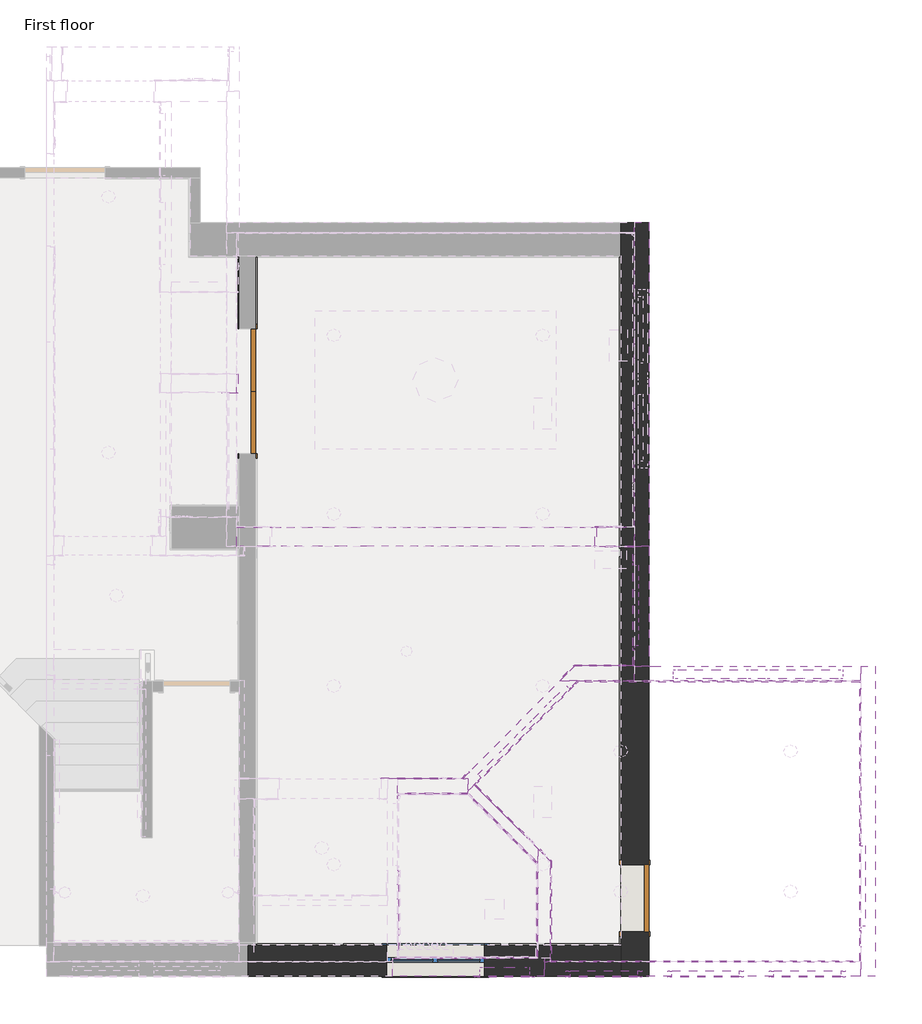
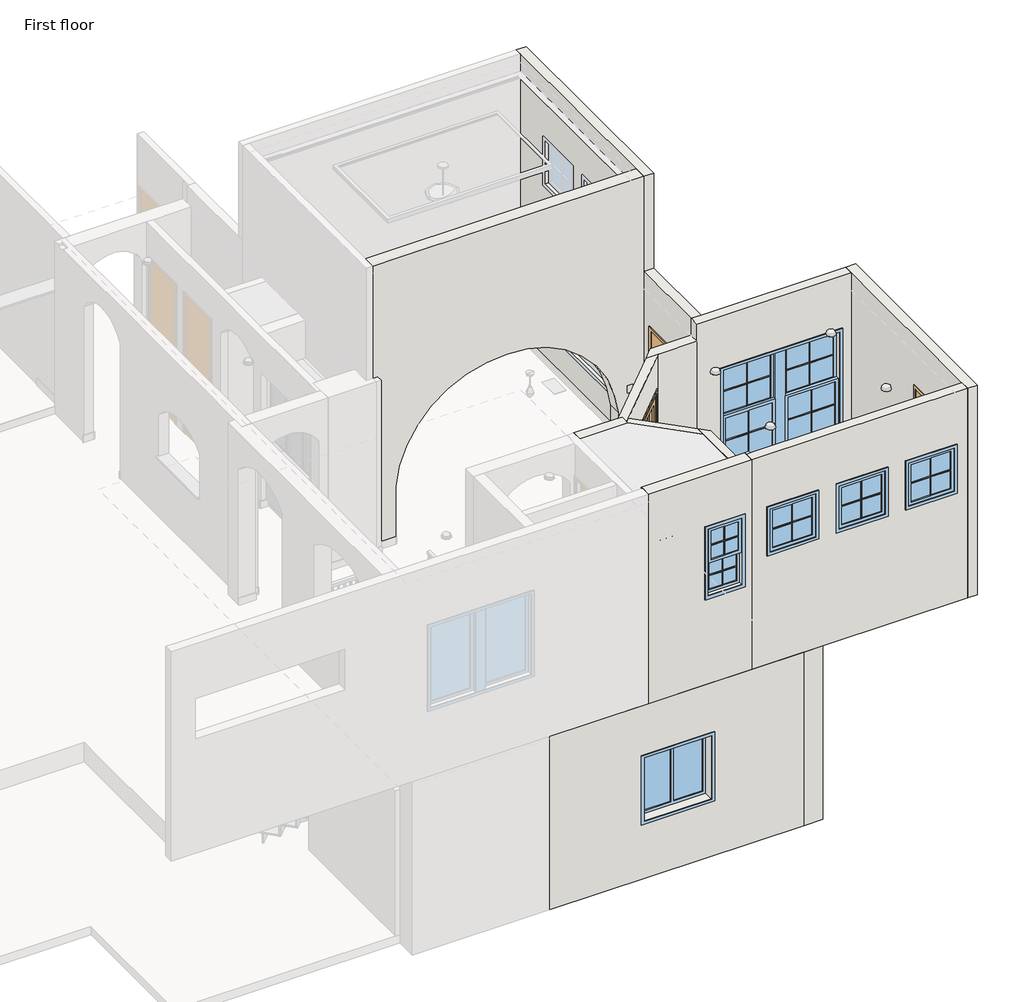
# One storey, part 6 of 14: 45 walls, 6 windows, 5 doors.
"""IFC4 building model written with IfcOpenShell, lengths in millimetres."""

from ifc_helpers import new_model, si_unit, frame, origin, origin_with_axes, place, context, project, spatial, polyline, circle_curve, outline, extrude, faceted_brep, transform, mapped, element, save
from ifc_brep_helpers import plane_surface, revolved_surface, advanced_brep
from components import door_2c57831a, door_65f2ba71, door_70bb29d6, door_d479302f, door_68885316, window_1e95f7a6, window_3fe6f13e, window_590863fd, window_b5689cda

model = new_model("IFC4")

# Units and contexts
model_context = context("Model", 3, world=origin())
ifc_project = project(units=[si_unit("LENGTHUNIT", "METRE", prefix="MILLI")], contexts=[model_context])

# Site, building, storey
site = spatial("IfcSite", under=ifc_project)
building = spatial("IfcBuilding", under=site)
storey = spatial("IfcBuildingStorey", under=building, Name="First floor", Elevation=0.0)

# Doors
placement = place(None, origin())
door_shape = door_2c57831a(model_context)
element("IfcDoor", 1, ObjectType="Door_1 : 2'-6\" X 6'-8\"", at=placement, inside=storey, context=model_context, shape_type="MappedRepresentation", body=[
    mapped(door_shape, transform((10712.45, 889.0, 0.0), x_axis=(0.0, -1.0, 0.0), y_axis=(1.0, 0.0, 0.0), z_axis=(0.0, 0.0, 1.0))),
])
door_2_shape = door_65f2ba71(model_context)
element("IfcDoor", 2, ObjectType="Door_1 : 3'-0\" X 8'-0\"", at=placement, inside=storey, context=model_context, shape_type="MappedRepresentation", body=[
    mapped(door_2_shape, transform((13366.75, 1028.7, 3251.2), x_axis=(0.0, -1.0, 0.0), y_axis=(1.0, 0.0, 0.0), z_axis=(0.0, 0.0, 1.0))),
])
door_3_shape = door_70bb29d6(model_context)
element("IfcDoor", 3, ObjectType="Door_4 : 4'-8\" X 8'-2\"", at=placement, inside=storey, context=model_context, shape_type="MappedRepresentation", body=[
    mapped(door_3_shape, transform((6303.16875, 6654.8, 0.0), x_axis=(0.0, -1.0, 0.0), y_axis=(1.0, 0.0, 0.0), z_axis=(0.0, 0.0, 1.0))),
])
door_4_shape = door_d479302f(model_context)
element("IfcDoor", 4, ObjectType="Door_5 : 4'-8\" X 8'-0\"", at=placement, inside=storey, context=model_context, shape_type="MappedRepresentation", body=[
    mapped(door_4_shape, transform((9416.1797046, 2815.6891591, 3251.2), x_axis=(-0.7050813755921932, -0.7091264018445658, 0.0), y_axis=(0.7091264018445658, -0.7050813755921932, 0.0), z_axis=(0.0, 0.0, 1.0))),
])
door_5_shape = door_68885316(model_context)
element("IfcDoor", 5, ObjectType="Door_6 : 3'-0\" X 8'-0\"", at=placement, inside=storey, context=model_context, shape_type="MappedRepresentation", body=[
    mapped(door_5_shape, transform((10785.475, 4216.4, 3251.2), x_axis=(0.0, -1.0, 0.0), y_axis=(1.0, 0.0, 0.0), z_axis=(0.0, 0.0, 1.0))),
])

# Walls
element("IfcWall", 6, ObjectType="Wall Border_T1", at=placement, inside=storey, context=model_context, shape_type="SweptSolid", body=[
    extrude(outline(polyline([(10541.0, 1320.8), (10541.0, 8178.8), (10553.7, 8178.8), (10553.7, 1320.8), (10541.0, 1320.8)])), origin_with_axes(), (0.0, 0.0, 1.0), 127.0),
])
element("IfcWall", 7, ObjectType="Wall Border_T1", at=placement, inside=storey, context=model_context, shape_type="Brep", body=[
    faceted_brep([(10541.0, 457.2, 0.0), (10541.0, 368.3, 0.0), (10541.0, 355.6, 0.0), (10541.0, 355.6, 127.0), (10541.0, 368.3, 127.0), (10541.0, 457.2, 127.0), (10553.7, 457.2, 0.0), (10553.7, 457.2, 127.0), (10553.7, 355.6, 127.0), (10553.7, 355.6, 0.0)], [[[0, 1, 2, 3, 4, 5]], [[6, 7, 8, 9]], [[2, 1, 0, 6, 9]], [[5, 4, 3, 8, 7]], [[0, 5, 7, 6]], [[3, 2, 9, 8]]]),
])
element("IfcWall", 8, ObjectType="Wall Border_T1", at=placement, inside=storey, context=model_context, shape_type="Brep", body=[
    faceted_brep([(10541.0, 368.3, 0.0), (6413.5, 368.3, 0.0), (6400.8, 368.3, 0.0), (6400.8, 368.3, 127.0), (6413.5, 368.3, 127.0), (10541.0, 368.3, 127.0), (10541.0, 355.6, 0.0), (10541.0, 355.6, 127.0), (6400.8, 355.6, 127.0), (6400.8, 355.6, 0.0)], [[[0, 1, 2, 3, 4, 5]], [[6, 7, 8, 9]], [[2, 1, 0, 6, 9]], [[5, 4, 3, 8, 7]], [[3, 2, 9, 8]], [[0, 5, 7, 6]]]),
])
element("IfcWall", 9, ObjectType="Wall Border_T1", at=placement, inside=storey, context=model_context, shape_type="SweptSolid", body=[
    extrude(outline(polyline([(6400.8, 7416.8), (6400.8, 8178.8), (6413.5, 8178.8), (6413.5, 7416.8), (6400.8, 7416.8)])), origin_with_axes(), (0.0, 0.0, 1.0), 127.0),
])
element("IfcWall", 10, ObjectType="Wall Border_T1", at=placement, inside=storey, context=model_context, shape_type="Brep", body=[
    faceted_brep([(6197.6, 8191.5, 0.0), (6197.6, 8178.8, 0.0), (6197.6, 7416.8, 0.0), (6197.6, 7416.8, 127.0), (6197.6, 8178.8, 127.0), (6197.6, 8191.5, 127.0), (6210.3, 8191.5, 0.0), (6210.3, 8191.5, 127.0), (6210.3, 7416.8, 127.0), (6210.3, 7416.8, 0.0)], [[[0, 1, 2, 3, 4, 5]], [[6, 7, 8, 9]], [[2, 1, 0, 6, 9]], [[3, 2, 9, 8]], [[5, 4, 3, 8, 7]], [[0, 5, 7, 6]]]),
])
element("IfcWall", 11, ObjectType="Wall Border_T1", at=placement, inside=storey, context=model_context, shape_type="Brep", body=[
    faceted_brep([(7823.2, 2247.9, 3251.2), (8756.4858755, 2247.9, 3251.2), (8756.4858755, 2247.9, 3378.2), (7823.2, 2247.9, 3378.2), (7823.2, 2260.6, 3251.2), (7823.2, 2260.6, 3378.2), (8751.2040717, 2260.6, 3378.2), (8769.1134317, 2260.6, 3378.2), (8769.1134317, 2260.6, 3251.2), (8751.2040717, 2260.6, 3251.2)], [[[0, 1, 2, 3]], [[4, 5, 6, 7, 8, 9]], [[1, 0, 4, 9, 8]], [[3, 2, 7, 6, 5]], [[0, 3, 5, 4]], [[2, 1, 8, 7]]]),
])
element("IfcWall", 12, ObjectType="Wall Border_T1", at=placement, inside=storey, context=model_context, shape_type="SweptSolid", body=[
    extrude(outline(polyline([(8751.2040717, 2260.6), (8822.0579191, 2331.8603334), (8831.0638244, 2322.9057999), (8769.1134317, 2260.6), (8751.2040717, 2260.6)])), frame((0.0, 0.0, 3251.2), z_axis=(0.0, 0.0, 1.0), x_axis=(1.0, 0.0, 0.0)), (0.0, 0.0, 1.0), 127.0),
])
element("IfcWall", 13, ObjectType="Wall Border_T1", at=placement, inside=storey, context=model_context, shape_type="SweptSolid", body=[
    extrude(outline(polyline([(8026.4, 2082.8), (8026.4, 2019.3), (8013.7, 2019.3), (8013.7, 2082.8), (8026.4, 2082.8)])), frame((0.0, 0.0, 3251.2), z_axis=(0.0, 0.0, 1.0), x_axis=(1.0, 0.0, 0.0)), (0.0, 0.0, 1.0), 1117.6),
])
element("IfcWall", 14, ObjectType="Wall Border_T1", at=placement, inside=storey, context=model_context, shape_type="Brep", body=[
    faceted_brep([(8026.4, 2070.1, 3251.2), (8811.9948776, 2070.1, 3251.2), (8829.9553898, 2070.1, 3251.2), (8829.9553898, 2070.1, 4368.8), (8811.9948776, 2070.1, 4368.8), (8026.4, 2070.1, 4368.8), (8026.4, 2082.8, 3251.2), (8026.4, 2082.8, 4368.8), (8817.2553898, 2082.8, 4368.8), (8817.2553898, 2082.8, 3251.2)], [[[0, 1, 2, 3, 4, 5]], [[6, 7, 8, 9]], [[2, 1, 0, 6, 9]], [[5, 4, 3, 8, 7]], [[3, 2, 9, 8]], [[0, 5, 7, 6]]]),
])
element("IfcWall", 15, ObjectType="Wall Border_T1", at=placement, inside=storey, context=model_context, shape_type="SweptSolid", body=[
    extrude(outline(polyline([(9613.9, 1268.1948776), (8811.9948776, 2070.1), (8829.9553898, 2070.1), (9613.9, 1286.1553898), (9613.9, 1268.1948776)])), frame((0.0, 0.0, 3251.2), z_axis=(0.0, 0.0, 1.0), x_axis=(1.0, 0.0, 0.0)), (0.0, 0.0, 1.0), 1117.6),
])
element("IfcWall", 16, ObjectType="Wall Border_T1", at=placement, inside=storey, context=model_context, shape_type="Brep", body=[
    faceted_brep([(9601.2, 1280.8948776, 3251.2), (9601.2, 215.9, 3251.2), (9601.2, 203.2, 3251.2), (9601.2, 203.2, 4368.8), (9601.2, 215.9, 4368.8), (9601.2, 1280.8948776, 4368.8), (9613.9, 1268.1948776, 3251.2), (9613.9, 1268.1948776, 4368.8), (9613.9, 203.2, 4368.8), (9613.9, 203.2, 3251.2)], [[[0, 1, 2, 3, 4, 5]], [[6, 7, 8, 9]], [[2, 1, 0, 6, 9]], [[5, 4, 3, 8, 7]], [[3, 2, 9, 8]], [[0, 5, 7, 6]]]),
])
element("IfcWall", 17, ObjectType="Wall Border_T1", at=placement, inside=storey, context=model_context, shape_type="Brep", body=[
    faceted_brep([(9601.2, 215.9, 3251.2), (8026.4, 215.9, 3251.2), (8013.7, 215.9, 3251.2), (8013.7, 215.9, 4368.8), (8026.4, 215.9, 4368.8), (9601.2, 215.9, 4368.8), (9601.2, 203.2, 3251.2), (9601.2, 203.2, 4368.8), (8013.7, 203.2, 4368.8), (8013.7, 203.2, 3251.2)], [[[0, 1, 2, 3, 4, 5]], [[6, 7, 8, 9]], [[2, 1, 0, 6, 9]], [[5, 4, 3, 8, 7]], [[3, 2, 9, 8]], [[0, 5, 7, 6]]]),
])
element("IfcWall", 18, ObjectType="Wall Border_T1", at=placement, inside=storey, context=model_context, shape_type="SweptSolid", body=[
    extrude(outline(polyline([(8026.4, 1206.5), (8026.4, 215.9), (8013.7, 215.9), (8013.7, 1206.5), (8026.4, 1206.5)])), frame((0.0, 0.0, 3251.2), z_axis=(0.0, 0.0, 1.0), x_axis=(1.0, 0.0, 0.0)), (0.0, 0.0, 1.0), 1117.6),
])
element("IfcWall", 19, ObjectType="Wall Border_T1", at=placement, inside=storey, context=model_context, shape_type="Brep", body=[
    faceted_brep([(10706.1, 5118.1001027, 3251.2), (10693.4, 5118.1001027, 3251.2), (10261.7527866, 5118.1001027, 3251.2), (10261.7527866, 5118.1001027, 3378.2), (10693.4, 5118.1001027, 3378.2), (10706.1, 5118.1001027, 3378.2), (10706.1, 5105.4001027, 3251.2), (10706.1, 5105.4001027, 3378.2), (10274.4527866, 5105.4001027, 3378.2), (10261.7527866, 5105.4001027, 3378.2), (10261.7527866, 5105.4001027, 3251.2), (10274.4527866, 5105.4001027, 3251.2)], [[[0, 1, 2, 3, 4, 5]], [[6, 7, 8, 9, 10, 11]], [[2, 1, 0, 6, 11, 10]], [[5, 4, 3, 9, 8, 7]], [[3, 2, 10, 9]], [[0, 5, 7, 6]]]),
])
element("IfcWall", 20, ObjectType="Wall Border_T1", at=placement, inside=storey, context=model_context, shape_type="Brep", body=[
    faceted_brep([(10261.7527866, 4876.8001027, 3251.2), (10706.1, 4876.8001027, 3251.2), (10706.1, 4876.8001027, 3378.2), (10261.7527866, 4876.8001027, 3378.2), (10261.7527866, 4889.5001027, 3251.2), (10261.7527866, 4889.5001027, 3378.2), (10274.4527866, 4889.5001027, 3378.2), (10706.1, 4889.5001027, 3378.2), (10706.1, 4889.5001027, 3251.2), (10274.4527866, 4889.5001027, 3251.2)], [[[0, 1, 2, 3]], [[4, 5, 6, 7, 8, 9]], [[1, 0, 4, 9, 8]], [[3, 2, 7, 6, 5]], [[2, 1, 8, 7]], [[0, 3, 5, 4]]]),
])
element("IfcWall", 21, ObjectType="Wall Border_T1", at=placement, inside=storey, context=model_context, shape_type="SweptSolid", body=[
    extrude(outline(polyline([(10693.4, 4724.4), (10693.4, 4876.8001027), (10706.1, 4876.8001027), (10706.1, 4724.4), (10693.4, 4724.4)])), frame((0.0, 0.0, 3251.2), z_axis=(0.0, 0.0, 1.0), x_axis=(1.0, 0.0, 0.0)), (0.0, 0.0, 1.0), 127.0),
])
element("IfcWall", 22, ObjectType="Wall Border_T1", at=placement, inside=storey, context=model_context, shape_type="Brep", body=[
    faceted_brep([(10693.4, 3708.4, 3251.2), (10693.4, 3543.3, 3251.2), (10693.4, 3530.6, 3251.2), (10693.4, 3530.6, 3378.2), (10693.4, 3543.3, 3378.2), (10693.4, 3708.4, 3378.2), (10706.1, 3708.4, 3251.2), (10706.1, 3708.4, 3378.2), (10706.1, 3530.6, 3378.2), (10706.1, 3530.6, 3251.2)], [[[0, 1, 2, 3, 4, 5]], [[6, 7, 8, 9]], [[2, 1, 0, 6, 9]], [[5, 4, 3, 8, 7]], [[0, 5, 7, 6]], [[3, 2, 9, 8]]]),
])
element("IfcWall", 23, ObjectType="Wall Border_T1", at=placement, inside=storey, context=model_context, shape_type="Brep", body=[
    faceted_brep([(10693.4, 3543.3, 3251.2), (10026.5872447, 3543.3, 3251.2), (10026.5872447, 3543.3, 3378.2), (10693.4, 3543.3, 3378.2), (10693.4, 3530.6, 3251.2), (10693.4, 3530.6, 3378.2), (10031.8690485, 3530.6, 3378.2), (10013.9596886, 3530.6, 3378.2), (10013.9596886, 3530.6, 3251.2), (10031.8690485, 3530.6, 3251.2)], [[[0, 1, 2, 3]], [[4, 5, 6, 7, 8, 9]], [[1, 0, 4, 9, 8]], [[3, 2, 7, 6, 5]], [[0, 3, 5, 4]], [[2, 1, 8, 7]]]),
])
element("IfcWall", 24, ObjectType="Wall Border_T1", at=placement, inside=storey, context=model_context, shape_type="SweptSolid", body=[
    extrude(outline(polyline([(9896.5774772, 3412.5443711), (10013.9596886, 3530.6), (10031.8690485, 3530.6), (9905.5833825, 3403.5898377), (9896.5774772, 3412.5443711)])), frame((0.0, 0.0, 3251.2), z_axis=(0.0, 0.0, 1.0), x_axis=(1.0, 0.0, 0.0)), (0.0, 0.0, 1.0), 127.0),
])
element("IfcWall", 25, ObjectType="Wall Border_T1", at=placement, inside=storey, context=model_context, shape_type="Brep", body=[
    faceted_brep([(10013.6787045, 3296.1600347, 3251.2), (10063.6818038, 3346.45, 3251.2), (10076.30936, 3359.15, 3251.2), (10076.30936, 3359.15, 3378.2), (10063.6818038, 3346.45, 3378.2), (10013.6787045, 3296.1600347, 3378.2), (10004.6727992, 3305.1145682, 3251.2), (10004.6727992, 3305.1145682, 3378.2), (10058.4, 3359.15, 3378.2), (10058.4, 3359.15, 3251.2)], [[[0, 1, 2, 3, 4, 5]], [[6, 7, 8, 9]], [[2, 1, 0, 6, 9]], [[5, 4, 3, 8, 7]], [[0, 5, 7, 6]], [[3, 2, 9, 8]]]),
])
element("IfcWall", 26, ObjectType="Wall Border_T1", at=placement, inside=storey, context=model_context, shape_type="SweptSolid", body=[
    extrude(outline(polyline([(13070.5049636, 3346.45), (10063.6818038, 3346.45), (10076.30936, 3359.15), (13070.5049636, 3359.15), (13070.5049636, 3346.45)])), frame((0.0, 0.0, 3251.2), z_axis=(0.0, 0.0, 1.0), x_axis=(1.0, 0.0, 0.0)), (0.0, 0.0, 1.0), 127.0),
])
element("IfcWall", 27, ObjectType="Wall Border_T1", at=placement, inside=storey, context=model_context, shape_type="SweptSolid", body=[
    extrude(outline(polyline([(13284.2, 3346.45), (13070.5049636, 3346.45), (13070.5049636, 3359.15), (13284.2, 3359.15), (13284.2, 3346.45)])), frame((0.0, 0.0, 3251.2), z_axis=(0.0, 0.0, 1.0), x_axis=(1.0, 0.0, 0.0)), (0.0, 0.0, 1.0), 127.0),
])
element("IfcWall", 28, ObjectType="Wall Border_T1", at=placement, inside=storey, context=model_context, shape_type="SweptSolid", body=[
    extrude(outline(polyline([(13271.5, 1536.7), (13271.5, 3346.45), (13284.2, 3346.45), (13284.2, 1536.7), (13271.5, 1536.7)])), frame((0.0, 0.0, 3251.2), z_axis=(0.0, 0.0, 1.0), x_axis=(1.0, 0.0, 0.0)), (0.0, 0.0, 1.0), 127.0),
])
element("IfcWall", 29, ObjectType="Wall Border_T1", at=placement, inside=storey, context=model_context, shape_type="Brep", body=[
    faceted_brep([(13271.5, 520.7, 3251.2), (13271.5, 177.8, 3251.2), (13271.5, 165.1, 3251.2), (13271.5, 165.1, 3378.2), (13271.5, 177.8, 3378.2), (13271.5, 520.7, 3378.2), (13284.2, 520.7, 3251.2), (13284.2, 520.7, 3378.2), (13284.2, 165.1, 3378.2), (13284.2, 165.1, 3251.2)], [[[0, 1, 2, 3, 4, 5]], [[6, 7, 8, 9]], [[2, 1, 0, 6, 9]], [[5, 4, 3, 8, 7]], [[0, 5, 7, 6]], [[3, 2, 9, 8]]]),
])
element("IfcWall", 30, ObjectType="Wall Border_T1", at=placement, inside=storey, context=model_context, shape_type="Brep", body=[
    faceted_brep([(13271.5, 177.8, 3251.2), (9766.3, 177.8, 3251.2), (9753.6, 177.8, 3251.2), (9753.6, 177.8, 3378.2), (9766.3, 177.8, 3378.2), (13271.5, 177.8, 3378.2), (13271.5, 165.1, 3251.2), (13271.5, 165.1, 3378.2), (9753.6, 165.1, 3378.2), (9753.6, 165.1, 3251.2)], [[[0, 1, 2, 3, 4, 5]], [[6, 7, 8, 9]], [[2, 1, 0, 6, 9]], [[5, 4, 3, 8, 7]], [[3, 2, 9, 8]], [[0, 5, 7, 6]]]),
])
element("IfcWall", 31, ObjectType="Wall Border_T1", at=placement, inside=storey, context=model_context, shape_type="Brep", body=[
    faceted_brep([(9766.3, 177.8, 3251.2), (9766.3, 1313.3605122, 3251.2), (9766.3, 1313.3605122, 3378.2), (9766.3, 177.8, 3378.2), (9753.6, 177.8, 3251.2), (9753.6, 177.8, 3378.2), (9753.6, 1308.1, 3378.2), (9753.6, 1326.0605122, 3378.2), (9753.6, 1326.0605122, 3251.2), (9753.6, 1308.1, 3251.2)], [[[0, 1, 2, 3]], [[4, 5, 6, 7, 8, 9]], [[1, 0, 4, 9, 8]], [[3, 2, 7, 6, 5]], [[0, 3, 5, 4]], [[2, 1, 8, 7]]]),
])
element("IfcWall", 32, ObjectType="Wall Border_T1", at=placement, inside=storey, context=model_context, shape_type="Brep", body=[
    faceted_brep([(9753.6, 1326.0605122, 3251.2), (8901.779055, 2177.8814573, 3251.2), (8892.7987621, 2186.8617501, 3251.2), (8892.7987621, 2186.8617501, 3378.2), (8901.779055, 2177.8814573, 3378.2), (9753.6, 1326.0605122, 3378.2), (9753.6, 1308.1, 3251.2), (9753.6, 1308.1, 3378.2), (8883.844192, 2177.855808, 3378.2), (8883.844192, 2177.855808, 3251.2)], [[[0, 1, 2, 3, 4, 5]], [[6, 7, 8, 9]], [[2, 1, 0, 6, 9]], [[5, 4, 3, 8, 7]], [[0, 5, 7, 6]], [[3, 2, 9, 8]]]),
])
element("IfcWall", 33, ObjectType="Wall Border_T1", at=placement, inside=storey, context=model_context, shape_type="SweptSolid", body=[
    extrude(outline(polyline([(8939.1433243, 2215.4600841), (8901.779055, 2177.8814573), (8892.7987621, 2186.8617501), (8930.137419, 2224.4146175), (8939.1433243, 2215.4600841)])), frame((0.0, 0.0, 3251.2), z_axis=(0.0, 0.0, 1.0), x_axis=(1.0, 0.0, 0.0)), (0.0, 0.0, 1.0), 127.0),
])
element("IfcWall", 34, ObjectType="Wall Border_T1", at=placement, inside=storey, context=model_context, shape_type="Brep", body=[
    faceted_brep([(6184.8999991, 6845.1947939, 3251.2), (6184.8999991, 6641.9947939, 3251.2), (6184.8999991, 6629.2947939, 3251.2), (6184.8999991, 6629.2947939, 3378.2), (6184.8999991, 6641.9947939, 3378.2), (6184.8999991, 6845.1947939, 3378.2), (6197.5999991, 6845.1947939, 3251.2), (6197.5999991, 6845.1947939, 3378.2), (6197.5999991, 6629.2947939, 3378.2), (6197.5999991, 6629.2947939, 3251.2)], [[[0, 1, 2, 3, 4, 5]], [[6, 7, 8, 9]], [[2, 1, 0, 6, 9]], [[5, 4, 3, 8, 7]], [[3, 2, 9, 8]], [[0, 5, 7, 6]]]),
])
element("IfcWall", 35, ObjectType="Wall Border_T1", at=placement, inside=storey, context=model_context, shape_type="SweptSolid", body=[
    extrude(outline(polyline([(6019.8, 6641.9947939), (6184.8999991, 6641.9947939), (6184.8999991, 6629.2947939), (6019.8, 6629.2947939), (6019.8, 6641.9947939)])), frame((0.0, 0.0, 3251.2), z_axis=(0.0, 0.0, 1.0), x_axis=(1.0, 0.0, 0.0)), (0.0, 0.0, 1.0), 127.0),
])
element("IfcWall", 36, ObjectType="Wall Border_T1", at=placement, inside=storey, context=model_context, shape_type="SweptSolid", body=[
    extrude(outline(polyline([(10261.7527866, 4889.5001027), (10261.7527866, 5105.4001027), (10274.4527866, 5105.4001027), (10274.4527866, 4889.5001027), (10261.7527866, 4889.5001027)])), frame((0.0, 0.0, 3251.2), z_axis=(0.0, 0.0, 1.0), x_axis=(1.0, 0.0, 0.0)), (0.0, 0.0, 1.0), 127.0),
])
element("IfcWall", 37, ObjectType="Wall_1'1/2\"", at=placement, inside=storey, context=model_context, shape_type="Brep", body=[
    faceted_brep([(10871.2, 0.0, -152.4), (10871.2, 8572.5, -152.4), (10871.2, 8572.5, 2908.3), (10871.2, 0.0, 2908.3), (10871.2, 1270.0, 0.0), (10871.2, 508.0, 0.0), (10871.2, 508.0, 2032.0), (10871.2, 1270.0, 2032.0), (10553.7, 0.0, -152.4), (10553.7, 0.0, 2908.3), (10553.7, 355.6, 2908.3), (10553.7, 8191.5, 2908.3), (10553.7, 8572.5, 2908.3), (10553.7, 8572.5, -152.4), (10553.7, 8191.5, -152.4), (10553.7, 355.6, -152.4), (10553.7, 1270.0, 0.0), (10553.7, 1270.0, 2032.0), (10553.7, 508.0, 2032.0), (10553.7, 508.0, 0.0)], [[[0, 1, 2, 3], [4, 5, 6, 7]], [[8, 9, 10, 11, 12, 13, 14, 15], [16, 17, 18, 19]], [[1, 0, 8, 15, 14, 13]], [[3, 2, 12, 11, 10, 9]], [[2, 1, 13, 12]], [[0, 3, 9, 8]], [[5, 4, 16, 19]], [[6, 5, 19, 18]], [[7, 6, 18, 17]], [[4, 7, 17, 16]]]),
])
element("IfcWall", 38, ObjectType="Wall_1'2\"", at=placement, inside=storey, context=model_context, shape_type="Brep", body=[
    faceted_brep([(10553.7, 355.6, -152.4), (6305.55, 355.6, -152.4), (6305.55, 355.6, 0.0), (6305.55, 355.6, 2565.4), (6305.55, 355.6, 2908.3), (10553.7, 355.6, 2908.3), (7886.7, 355.6, 1981.2), (7886.7, 355.6, 863.6), (9004.3, 355.6, 863.6), (9004.3, 355.6, 1981.2), (10553.7, 0.0, -152.4), (10553.7, 0.0, 2908.3), (6305.55, 0.0, 2908.3), (6305.55, 0.0, -152.4), (7886.7, 0.0, 1981.2), (9004.3, 0.0, 1981.2), (9004.3, 0.0, 863.6), (7886.7, 0.0, 863.6)], [[[0, 1, 2, 3, 4, 5], [6, 7, 8, 9]], [[10, 11, 12, 13], [14, 15, 16, 17]], [[1, 0, 10, 13]], [[4, 3, 2, 1, 13, 12]], [[5, 4, 12, 11]], [[0, 5, 11, 10]], [[7, 6, 14, 17]], [[8, 7, 17, 16]], [[9, 8, 16, 15]], [[6, 9, 15, 14]]]),
])
element("IfcWall", 39, ObjectType="Wall_4.5\"", at=placement, inside=storey, context=model_context, shape_type="Brep", body=[
    faceted_brep([(9613.9, 1286.1553898, 3251.2), (9613.9, 1286.1553898, 6299.2), (8817.2553898, 2082.8, 6299.2), (8817.2553898, 2082.8, 3251.2), (8829.9553898, 2070.1, 3251.2), (9613.9, 1447.8, 6299.2), (9613.9, 1447.8, 3251.2), (8883.844192, 2177.855808, 3251.2), (8883.844192, 2177.855808, 6299.2), (8817.2553898, 2121.2558172, 3251.2), (8822.4407194, 2116.1000659, 3251.2), (8822.4407194, 2116.1000659, 6299.2), (8817.2553898, 2121.2558172, 6299.2)], [[[0, 1, 2, 3, 4]], [[5, 6, 7, 8]], [[6, 0, 4, 3, 9, 10, 7]], [[1, 5, 8, 11, 12, 2]], [[1, 0, 6, 5]], [[10, 11, 8, 7]], [[11, 10, 9, 12]], [[3, 2, 12, 9]]]),
])
element("IfcWall", 40, ObjectType="Wall_5.5\"", at=placement, inside=storey, context=model_context, shape_type="Brep", body=[
    faceted_brep([(9861.3970403, 3359.15, 6299.2), (9861.3970403, 3359.15, 5689.6), (8866.8819583, 2358.9294212, 5689.6), (8866.8819583, 2358.9294212, 3251.2), (8756.4858755, 2247.9, 3251.2), (8756.4858755, 2247.9, 6299.2), (8822.4407194, 2116.1000659, 6299.2), (8822.4407194, 2116.1000659, 3251.2), (8883.844192, 2177.855808, 3251.2), (8892.7987621, 2186.8617501, 3251.2), (8965.9469167, 2260.429553, 3251.2), (8965.9469167, 2260.429553, 5689.6), (9968.8546653, 3269.090947, 5689.6), (9968.8546653, 3269.090947, 3251.2), (10058.4, 3359.15, 3251.2), (10058.4, 3359.15, 6299.2), (8883.844192, 2177.855808, 6299.2), (9878.2789467, 3359.15, 3251.2), (8817.2553898, 2121.2558172, 3251.2), (8817.2553898, 2247.9, 3251.2), (8817.2553898, 2121.2558172, 6299.2), (8817.2553898, 2247.9, 6299.2), (9878.2789467, 3359.15, 5689.6)], [[[0, 1, 2, 3, 4, 5]], [[6, 7, 8, 9, 10, 11, 12, 13, 14, 15, 16]], [[14, 13, 17]], [[10, 9, 8, 7, 18, 19, 4, 3]], [[7, 6, 20, 18]], [[6, 16, 15, 0, 5, 21, 20]], [[0, 15, 14, 17, 22, 1]], [[2, 11, 10, 3]], [[11, 2, 1, 22, 12]], [[12, 22, 17, 13]], [[19, 21, 5, 4]], [[21, 19, 18, 20]]]),
])
element("IfcWall", 41, ObjectType="Wall_5.5\"", at=placement, inside=storey, context=model_context, shape_type="Brep", body=[
    faceted_brep([(9753.6, 165.1, 3251.2), (9753.6, 177.8, 3251.2), (9753.6, 1308.1, 3251.2), (9753.6, 1308.1, 6299.2), (9753.6, 203.2, 6299.2), (9753.6, 203.2, 6604.0), (9753.6, 165.1, 6604.0), (9753.6, 165.1, 6299.2), (9753.6, 165.1, 3378.2), (9613.9, 1447.8, 3251.2), (9613.9, 1286.1553898, 3251.2), (9613.9, 1268.1948776, 3251.2), (9613.9, 203.2, 3251.2), (9613.9, 203.2, 6299.2), (9613.9, 1286.1553898, 6299.2), (9613.9, 1447.8, 6299.2), (9683.75, 165.1, 3251.2), (9683.75, 203.2, 3251.2), (9683.75, 203.2, 6604.0), (9683.75, 165.1, 6604.0), (9683.75, 203.2, 6299.2)], [[[0, 1, 2, 3, 4, 5, 6, 7, 8]], [[9, 10, 11, 12, 13, 14, 15]], [[2, 1, 0, 16, 17, 12, 11, 10, 9]], [[18, 19, 6, 5]], [[2, 9, 15, 3]], [[6, 19, 16, 0, 8, 7]], [[19, 18, 20, 17, 16]], [[12, 17, 20, 13]], [[20, 4, 3, 15, 14, 13]], [[4, 20, 18, 5]]]),
])
element("IfcWall", 42, ObjectType="Wall_6.5\"", at=placement, inside=storey, context=model_context, shape_type="Brep", body=[
    faceted_brep([(13284.2, 3524.25, 6604.0), (13284.2, 3524.25, 2908.3), (13284.2, 3359.15, 2908.3), (13284.2, 165.1, 2908.3), (13284.2, 0.0, 2908.3), (13284.2, 0.0, 6604.0), (13284.2, 165.1, 6604.0), (13284.2, 3359.15, 6604.0), (13284.2, 1485.9, 3251.2), (13284.2, 1485.9, 5689.6), (13284.2, 571.5, 5689.6), (13284.2, 571.5, 3251.2), (13449.3, 3524.25, 2908.3), (13449.3, 3524.25, 6604.0), (13449.3, 0.0, 6604.0), (13449.3, 0.0, 2908.3), (13449.3, 1485.9, 3251.2), (13449.3, 571.5, 3251.2), (13449.3, 571.5, 5689.6), (13449.3, 1485.9, 5689.6)], [[[0, 1, 2, 3, 4, 5, 6, 7], [8, 9, 10, 11]], [[12, 13, 14, 15], [16, 17, 18, 19]], [[4, 3, 2, 1, 12, 15]], [[0, 7, 6, 5, 14, 13]], [[5, 4, 15, 14]], [[17, 16, 8, 11]], [[18, 17, 11, 10]], [[19, 18, 10, 9]], [[16, 19, 9, 8]], [[0, 13, 12, 1]]]),
])
element("IfcWall", 43, ObjectType="Wall_6.5\"", at=placement, inside=storey, context=model_context, shape_type="Brep", body=[
    faceted_brep([(13284.2, 165.1, 2908.3), (9683.75, 165.1, 2908.3), (9683.75, 165.1, 3251.2), (9683.75, 165.1, 6604.0), (9753.6, 165.1, 6604.0), (13284.2, 165.1, 6604.0), (13284.2, 165.1, 3378.2), (13284.2, 165.1, 3251.2), (9880.6, 165.1, 4775.2), (10845.8, 165.1, 4775.2), (10845.8, 165.1, 5740.4), (9880.6, 165.1, 5740.4), (12001.5, 165.1, 4775.2), (12001.5, 165.1, 5740.4), (11036.3, 165.1, 5740.4), (11036.3, 165.1, 4775.2), (13157.2, 165.1, 5740.4), (12192.0, 165.1, 5740.4), (12192.0, 165.1, 4775.2), (13157.2, 165.1, 4775.2), (9683.75, 0.0, 2908.3), (13284.2, 0.0, 2908.3), (13284.2, 0.0, 6604.0), (9683.75, 0.0, 6604.0), (11899.9, 0.0, 4876.8), (11137.9, 0.0, 4876.8), (11137.9, 0.0, 5638.8), (11899.9, 0.0, 5638.8), (13055.6, 0.0, 5638.8), (13055.6, 0.0, 4876.8), (12293.6, 0.0, 4876.8), (12293.6, 0.0, 5638.8), (10744.2, 0.0, 5638.8), (10744.2, 0.0, 4876.8), (9982.2, 0.0, 4876.8), (9982.2, 0.0, 5638.8), (11899.9, 50.8, 5638.8), (11899.9, 50.8, 4876.8), (11137.9, 50.8, 4876.8), (11137.9, 50.8, 5638.8), (13055.6, 50.8, 5638.8), (13055.6, 50.8, 4876.8), (12293.6, 50.8, 4876.8), (12293.6, 50.8, 5638.8), (10744.2, 50.8, 5638.8), (10744.2, 50.8, 4876.8), (9982.2, 50.8, 4876.8), (9982.2, 50.8, 5638.8), (9880.6, 50.8, 4775.2), (9880.6, 50.8, 5740.4), (10845.8, 50.8, 5740.4), (10845.8, 50.8, 4775.2), (12001.5, 50.8, 4775.2), (11036.3, 50.8, 4775.2), (11036.3, 50.8, 5740.4), (12001.5, 50.8, 5740.4), (13157.2, 50.8, 5740.4), (13157.2, 50.8, 4775.2), (12192.0, 50.8, 4775.2), (12192.0, 50.8, 5740.4)], [[[0, 1, 2, 3, 4, 5, 6, 7], [8, 9, 10, 11], [12, 13, 14, 15], [16, 17, 18, 19]], [[20, 21, 22, 23], [24, 25, 26, 27], [28, 29, 30, 31], [32, 33, 34, 35]], [[1, 0, 21, 20]], [[5, 4, 3, 23, 22]], [[0, 7, 6, 5, 22, 21]], [[1, 20, 23, 3, 2]], [[24, 27, 36, 37]], [[25, 24, 37, 38]], [[26, 25, 38, 39]], [[27, 26, 39, 36]], [[29, 28, 40, 41]], [[30, 29, 41, 42]], [[31, 30, 42, 43]], [[28, 31, 43, 40]], [[33, 32, 44, 45]], [[34, 33, 45, 46]], [[35, 34, 46, 47]], [[32, 35, 47, 44]], [[48, 49, 50, 51], [45, 44, 47, 46]], [[48, 51, 9, 8]], [[51, 50, 10, 9]], [[50, 49, 11, 10]], [[49, 48, 8, 11]], [[52, 53, 54, 55], [37, 36, 39, 38]], [[52, 55, 13, 12]], [[55, 54, 14, 13]], [[54, 53, 15, 14]], [[53, 52, 12, 15]], [[56, 57, 58, 59], [41, 40, 43, 42]], [[56, 59, 17, 16]], [[59, 58, 18, 17]], [[58, 57, 19, 18]], [[57, 56, 16, 19]]]),
])
element("IfcWall", 44, ObjectType="Wall_6.5\"", at=placement, inside=storey, context=model_context, shape_type="Brep", body=[
    faceted_brep([(13284.2, 3524.25, 2908.3), (10871.2, 3524.25, 2908.3), (10706.1, 3524.25, 2908.3), (10706.1, 3524.25, 6604.0), (10871.2, 3524.25, 6604.0), (13284.2, 3524.25, 6604.0), (11150.6, 3524.25, 5638.8), (11150.6, 3524.25, 3911.6), (13081.0, 3524.25, 3911.6), (13081.0, 3524.25, 5638.8), (13284.2, 3359.15, 2908.3), (13284.2, 3359.15, 6604.0), (10706.1, 3359.15, 6604.0), (10706.1, 3359.15, 6299.2), (10706.1, 3359.15, 3251.2), (10706.1, 3359.15, 2908.3), (11150.6, 3359.15, 5638.8), (13081.0, 3359.15, 5638.8), (13081.0, 3359.15, 3911.6), (11150.6, 3359.15, 3911.6)], [[[0, 1, 2, 3, 4, 5], [6, 7, 8, 9]], [[10, 11, 12, 13, 14, 15], [16, 17, 18, 19]], [[2, 1, 0, 10, 15]], [[5, 4, 3, 12, 11]], [[0, 5, 11, 10]], [[7, 6, 16, 19]], [[8, 7, 19, 18]], [[9, 8, 18, 17]], [[6, 9, 17, 16]], [[2, 15, 14, 13, 12, 3]]]),
])
element("IfcWall", 45, ObjectType="Wall_6.5\"", at=placement, inside=storey, context=model_context, shape_type="Brep", body=[
    faceted_brep([(10871.2, 3524.25, 2908.3), (10871.2, 4889.5001027, 2908.3), (10871.2, 4889.5001027, 6604.0), (10871.2, 3524.25, 6604.0), (10871.2, 3759.2, 3251.2), (10871.2, 3759.2, 5689.6), (10871.2, 4673.6, 5689.6), (10871.2, 4673.6, 3251.2), (10706.1, 4889.5001027, 2908.3), (10706.1, 3524.25, 2908.3), (10706.1, 3524.25, 6604.0), (10706.1, 4889.5001027, 6604.0), (10706.1, 4889.5001027, 3378.2), (10706.1, 4889.5001027, 3251.2), (10706.1, 3759.2, 5689.6), (10706.1, 3759.2, 3251.2), (10706.1, 4673.6, 3251.2), (10706.1, 4673.6, 5689.6)], [[[0, 1, 2, 3], [4, 5, 6, 7]], [[8, 9, 10, 11, 12, 13], [14, 15, 16, 17]], [[1, 0, 9, 8]], [[3, 2, 11, 10]], [[4, 15, 14, 5]], [[5, 14, 17, 6]], [[6, 17, 16, 7]], [[15, 4, 7, 16]], [[1, 8, 13, 12, 11, 2]], [[3, 10, 9, 0]]]),
])
element("IfcWall", 46, ObjectType="Wall_6.5\"", at=placement, inside=storey, context=model_context, shape_type="Brep", body=[
    faceted_brep([(8013.7, 2082.8, 6299.2), (8013.7, 2082.8, 4368.8), (8013.7, 2082.8, 3251.2), (8026.4, 2082.8, 3251.2), (8817.2553898, 2082.8, 3251.2), (8817.2553898, 2082.8, 6299.2), (8013.7, 2247.9, 3251.2), (8013.7, 2247.9, 6299.2), (8756.4858755, 2247.9, 6299.2), (8817.2553898, 2247.9, 6299.2), (8817.2553898, 2247.9, 3251.2), (8756.4858755, 2247.9, 3251.2), (8817.2553898, 2121.2558172, 3251.2), (8817.2553898, 2121.2558172, 6299.2)], [[[0, 1, 2, 3, 4, 5]], [[6, 7, 8, 9, 10, 11]], [[4, 3, 2, 6, 11, 10, 12]], [[5, 4, 12, 10, 9, 13]], [[0, 5, 13, 9, 8, 7]], [[0, 7, 6, 2, 1]]]),
])
element("IfcWall", 47, ObjectType="Wall_6.5\"", at=placement, inside=storey, context=model_context, shape_type="Brep", body=[
    faceted_brep([(10871.2, 4889.5001027, 8280.4), (10871.2, 4889.5001027, 6604.0), (10871.2, 4889.5001027, 2908.3), (10871.2, 8572.5, 2908.3), (10871.2, 8572.5, 8280.4), (10871.2, 7810.5123648, 5689.6), (10871.2, 7810.5123648, 3911.6), (10871.2, 5778.5123648, 3911.6), (10871.2, 5778.5123648, 5689.6), (10871.2, 7733.3, 7188.2), (10871.2, 7733.3, 6426.2), (10871.2, 6971.3, 6426.2), (10871.2, 6971.3, 7188.2), (10871.2, 6616.7001027, 7188.2), (10871.2, 6616.7001027, 6426.2), (10871.2, 5854.7001027, 6426.2), (10871.2, 5854.7001027, 7188.2), (10706.1, 4889.5001027, 2908.3), (10706.1, 4889.5001027, 3251.2), (10706.1, 4889.5001027, 6604.0), (10706.1, 4889.5001027, 8280.4), (10706.1, 5105.4001027, 8280.4), (10706.1, 8458.2, 8280.4), (10706.1, 8572.5, 8280.4), (10706.1, 8572.5, 2908.3), (10706.1, 8458.2, 2908.3), (10706.1, 7810.5123648, 5689.6), (10706.1, 5778.5123648, 5689.6), (10706.1, 5778.5123648, 3911.6), (10706.1, 7810.5123648, 3911.6), (10706.1, 7733.3, 7188.2), (10706.1, 6971.3, 7188.2), (10706.1, 6971.3, 6426.2), (10706.1, 7733.3, 6426.2), (10706.1, 6616.7001027, 7188.2), (10706.1, 5854.7001027, 7188.2), (10706.1, 5854.7001027, 6426.2), (10706.1, 6616.7001027, 6426.2)], [[[0, 1, 2, 3, 4], [5, 6, 7, 8], [9, 10, 11, 12], [13, 14, 15, 16]], [[17, 18, 19, 20, 21, 22, 23, 24, 25], [26, 27, 28, 29], [30, 31, 32, 33], [34, 35, 36, 37]], [[3, 2, 17, 25, 24]], [[0, 4, 23, 22, 21, 20]], [[4, 3, 24, 23]], [[6, 5, 26, 29]], [[7, 6, 29, 28]], [[8, 7, 28, 27]], [[5, 8, 27, 26]], [[10, 9, 30, 33]], [[11, 10, 33, 32]], [[12, 11, 32, 31]], [[9, 12, 31, 30]], [[14, 13, 34, 37]], [[15, 14, 37, 36]], [[16, 15, 36, 35]], [[13, 16, 35, 34]], [[0, 20, 19, 18, 17, 2, 1]]]),
])
element("IfcWall", 48, ObjectType="Wall_6.75\"", at=placement, inside=storey, context=model_context, shape_type="Brep", body=[
    faceted_brep([(10706.1, 3530.6, 3251.2), (10693.4, 3530.6, 3251.2), (10031.8690485, 3530.6, 3251.2), (10031.8690485, 3530.6, 6299.2), (10706.1, 3530.6, 6299.2), (10706.1, 3530.6, 3378.2), (10706.1, 3359.15, 6299.2), (10058.4, 3359.15, 6299.2), (9861.3970403, 3359.15, 6299.2), (9861.3970403, 3359.15, 5689.6), (9878.2789467, 3359.15, 5689.6), (9878.2789467, 3359.15, 3251.2), (10058.4, 3359.15, 3251.2), (10706.1, 3359.15, 3251.2), (9869.789707, 3367.5908151, 3251.2), (9869.789707, 3367.5908151, 5689.6)], [[[0, 1, 2, 3, 4, 5]], [[6, 7, 8, 9, 10, 11, 12, 13]], [[2, 1, 0, 13, 12, 11, 14]], [[4, 3, 8, 7, 6]], [[0, 5, 4, 6, 13]], [[3, 2, 14, 15, 9, 8]], [[15, 10, 9]], [[10, 15, 14, 11]]]),
])
element("IfcWall", 49, ObjectType="Wall_8\"", at=placement, inside=storey, context=model_context, shape_type="Brep", body=[
    faceted_brep([(9683.75, 203.2, 6604.0), (9683.75, 203.2, 6299.2), (9683.75, 203.2, 3251.2), (9683.75, 203.2, 2908.3), (7956.55, 203.2, 2908.3), (7956.55, 203.2, 3251.2), (7956.55, 203.2, 6299.2), (7956.55, 203.2, 6604.0), (9512.3, 203.2, 5638.8), (8953.5, 203.2, 5638.8), (8953.5, 203.2, 4470.4), (9512.3, 203.2, 4470.4), (9683.75, 0.0, 2908.3), (9683.75, 0.0, 6604.0), (7956.55, 0.0, 6604.0), (7956.55, 0.0, 2908.3), (9512.3, 0.0, 5638.8), (9512.3, 0.0, 4470.4), (8953.5, 0.0, 4470.4), (8953.5, 0.0, 5638.8), (9683.75, 165.1, 2908.3), (7956.55, 165.1, 2908.3), (7956.55, 165.1, 6604.0), (9683.75, 165.1, 6604.0)], [[[0, 1, 2, 3, 4, 5, 6, 7], [8, 9, 10, 11]], [[12, 13, 14, 15], [16, 17, 18, 19]], [[4, 3, 20, 12, 15, 21]], [[0, 7, 22, 14, 13, 23]], [[17, 16, 8, 11]], [[18, 17, 11, 10]], [[19, 18, 10, 9]], [[16, 19, 9, 8]], [[0, 23, 13, 12, 20, 3, 2, 1]], [[4, 21, 15, 14, 22, 7, 6, 5]]]),
])
element("IfcWall", 50, ObjectType="Wall_8.5\"", at=placement, inside=storey, context=model_context, shape_type="AdvancedBrep", body=[
    advanced_brep(
    [(10706.1, 4889.5001027, 8280.4), (6184.8999991, 4889.5001027, 8280.4), (6184.8999991, 4889.5001027, 6299.2), (6184.8999991, 4889.5001027, 3251.2), (6261.0999991, 4889.5001027, 3251.2), (6566.0527866, 4889.5001027, 3251.2), (6566.0527866, 4889.5001027, 4267.2), (8420.2527866, 4889.5001027, 5943.6), (10274.4527866, 4889.5001027, 4267.2), (10274.4527866, 4889.5001027, 3251.2), (10706.1, 4889.5001027, 3251.2), (6184.8999991, 5105.4001027, 8280.4), (10706.1, 5105.4001027, 8280.4), (10706.1, 5105.4001027, 3251.2), (10274.4527866, 5105.4001027, 3251.2), (10274.4527866, 5105.4001027, 4267.2), (8420.2527866, 5105.4001027, 5943.6), (6566.0527866, 5105.4001027, 4267.2), (6566.0527866, 5105.4001027, 3251.2), (6184.8999991, 5105.4001027, 3251.2)],
    [
        (0, 1),
        (1, 2),
        (2, 3),
        (3, 4),
        (4, 5),
        (5, 6),
        (6, 7, circle_curve(frame((8388.5147347, 4889.5001027, 4115.075421), z_axis=(0.0, 1.0, 0.0), x_axis=(-1.0, 0.0, 0.0)), 1828.8)),
        (7, 8, circle_curve(frame((8451.9908384, 4889.5001027, 4115.075421), z_axis=(0.0, 1.0, 0.0), x_axis=(1.0, 0.0, 0.0)), 1828.8)),
        (8, 9),
        (9, 10),
        (10, 0),
        (11, 12),
        (12, 13),
        (13, 14),
        (14, 15),
        (15, 16, circle_curve(frame((8451.9908384, 5105.4001027, 4115.075421), z_axis=(0.0, -1.0, 0.0), x_axis=(1.0, 0.0, 0.0)), 1828.8)),
        (16, 17, circle_curve(frame((8388.5147347, 5105.4001027, 4115.075421), z_axis=(0.0, -1.0, 0.0), x_axis=(-1.0, 0.0, 0.0)), 1828.8)),
        (17, 18),
        (18, 19),
        (19, 11),
        (13, 10),
        (9, 14),
        (3, 19),
        (18, 5),
        (0, 12),
        (11, 1),
        (17, 6),
        (8, 15),
        (7, 16),
    ],
    [
        plane_surface(frame((6184.8999991, 4889.5001027, 3251.2), z_axis=(0.0, -1.0, 0.0), x_axis=(1.0, 0.0, 0.0))),
        plane_surface(frame((6184.8999991, 5105.4001027, 3251.2), z_axis=(0.0, 1.0, 0.0), x_axis=(-1.0, 0.0, 0.0))),
        plane_surface(frame((6127.7499991, 4889.5001027, 3251.2), z_axis=(0.0, 0.0, -1.0), x_axis=(0.0, 1.0, 0.0))),
        plane_surface(frame((10788.65, 4889.5001027, 8280.4), z_axis=(0.0, 0.0, 1.0), x_axis=(0.0, 1.0, 0.0))),
        plane_surface(frame((6184.8999991, 4893.690132, 3251.2), z_axis=(-1.0, 0.0, 0.0), x_axis=(0.0, 1.0, 0.0))),
        plane_surface(frame((10706.1, 3646.1886755, 2908.3), z_axis=(1.0, 0.0, 0.0), x_axis=(0.0, -1.0, 0.0))),
        plane_surface(frame((6566.0527866, 4889.5001027, 4267.2), z_axis=(1.0, 0.0, 0.0), x_axis=(0.0, 1.0, 0.0))),
        plane_surface(frame((10274.4527866, 4889.5001027, 3251.2), z_axis=(-1.0, 0.0, 0.0), x_axis=(0.0, 1.0, 0.0))),
        revolved_surface(polyline([(10280.790838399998, 4889.5001027, 4115.075421), (10280.790838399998, 5105.4001027, 4115.075421)]), (8451.9908384, 5105.4001027, 4115.075421), (0.0, -1.0, 0.0)),
        revolved_surface(polyline([(6559.7147347, 4889.5001027, 4115.075421), (6559.7147347, 5105.4001027, 4115.075421)]), (8388.5147347, 5105.4001027, 4115.075421), (0.0, -1.0, 0.0)),
    ],
    [
        (0, [[1, 2, 3, 4, 5, 6, 7, 8, 9, 10, 11]]),
        (1, [[12, 13, 14, 15, 16, 17, 18, 19, 20]]),
        (2, [[21, -10, 22, -14]]),
        (2, [[23, -19, 24, -5, -4]]),
        (3, [[-1, 25, -12, 26]]),
        (4, [[-3, -2, -26, -20, -23]]),
        (5, [[-21, -13, -25, -11]]),
        (6, [[27, -6, -24, -18]]),
        (7, [[28, -15, -22, -9]]),
        (8, [[-28, -8, 29, -16]]),
        (9, [[-27, -17, -29, -7]]),
    ],
),
])

# Windows
window_shape = window_1e95f7a6(model_context)
element("IfcWindow", 51, ObjectType="Window_11 : 6'-4\" X 5'-8\"", at=placement, inside=storey, context=model_context, shape_type="MappedRepresentation", body=[
    mapped(window_shape, transform((12115.8, 3441.7, 3098.8), x_axis=(-1.0, 0.0, 0.0), y_axis=(0.0, -1.0, 0.0), z_axis=(0.0, 0.0, 1.0))),
])
window_2_shape = window_3fe6f13e(model_context)
element("IfcWindow", 52, ObjectType="Window_4 : 1'-10\" X 3'-10\"", at=placement, inside=storey, context=model_context, shape_type="MappedRepresentation", body=[
    mapped(window_2_shape, transform((9232.9, 101.6, 3606.8), x_axis=(1.0, 0.0, 0.0), y_axis=(0.0, 1.0, 0.0), z_axis=(0.0, 0.0, 1.0))),
])
window_3_shape = window_590863fd(model_context)
element("IfcWindow", 53, ObjectType="Window_5 : 2'-6\" X 2'-6\"", at=placement, inside=storey, context=model_context, shape_type="MappedRepresentation", body=[
    mapped(window_3_shape, transform((11506.2, 82.55, 4064.0), x_axis=(1.0, 0.0, 0.0), y_axis=(0.0, 1.0, 0.0), z_axis=(0.0, 0.0, 1.0))),
])
element("IfcWindow", 54, ObjectType="Window_5 : 2'-6\" X 2'-6\"", at=placement, inside=storey, context=model_context, shape_type="MappedRepresentation", body=[
    mapped(window_3_shape, transform((12661.9, 82.55, 4064.0), x_axis=(1.0, 0.0, 0.0), y_axis=(0.0, 1.0, 0.0), z_axis=(0.0, 0.0, 1.0))),
])
element("IfcWindow", 55, ObjectType="Window_5 : 2'-6\" X 2'-6\"", at=placement, inside=storey, context=model_context, shape_type="MappedRepresentation", body=[
    mapped(window_3_shape, transform((10350.5, 82.55, 4064.0), x_axis=(1.0, 0.0, 0.0), y_axis=(0.0, 1.0, 0.0), z_axis=(0.0, 0.0, 1.0))),
])
window_4_shape = window_b5689cda(model_context)
element("IfcWindow", 56, ObjectType="Window_6 : 3'-8\" X 3'-8\"", at=placement, inside=storey, context=model_context, shape_type="MappedRepresentation", body=[
    mapped(window_4_shape, transform((8458.2, 177.8, 50.8), x_axis=(-1.0, 0.0, 0.0), y_axis=(0.0, -1.0, 0.0), z_axis=(0.0, 0.0, 1.0))),
])

save(model, "model.ifc")
